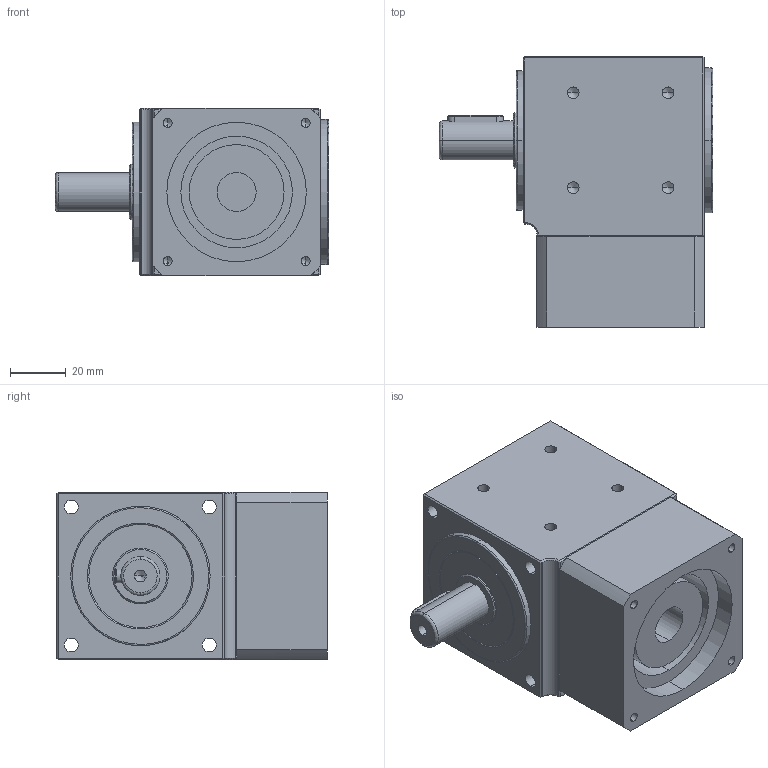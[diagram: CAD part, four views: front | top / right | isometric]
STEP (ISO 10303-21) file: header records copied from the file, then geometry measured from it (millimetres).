
FILE_DESCRIPTION (( 'STEP AP214' ), '1' );
FILE_NAME ('ZR060-002--14-50-70-M5.STEP', '2021-04-13T07:53:42', ( '微软用户' ), ( '微软中国' ), 'SwSTEP 2.0', 'SolidWorks 2014', '' );
FILE_SCHEMA (( 'AUTOMOTIVE_DESIGN' ));
Length unit declared in the file: millimetre
Products named in the file (2): ZR060-002--14-50-70-M5
Bounding box: 98 x 97 x 60 mm (x, y, z)
Volume: 347709.9 mm3; surface area: 48778.8 mm2
Topology: 1 solids, 2 shells, 206 faces, 477 edges, 269 vertices
Faces by surface type: cylinder 81, plane 67, cone 48, bspline 10
Entity records: 8382 total; most frequent: CARTESIAN_POINT 1596, DIRECTION 1013, ORIENTED_EDGE 886, EDGE_CURVE 443, AXIS2_PLACEMENT_3D 394, VERTEX_POINT 269, EDGE_LOOP 244, LINE 225
